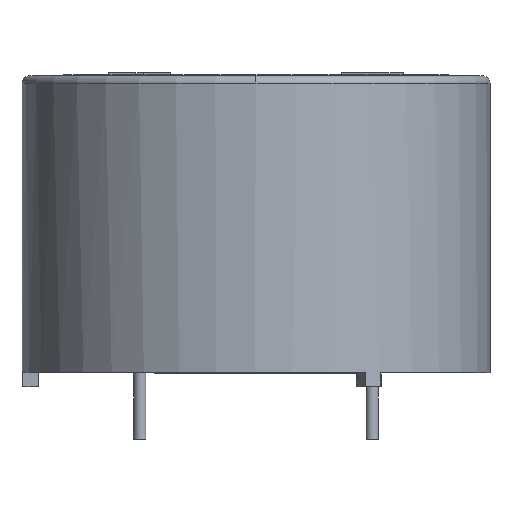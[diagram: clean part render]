
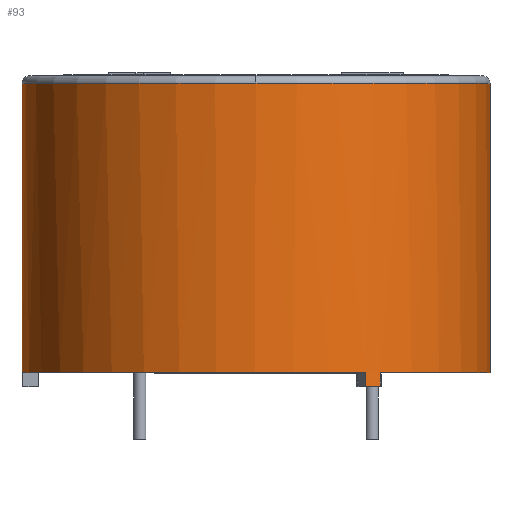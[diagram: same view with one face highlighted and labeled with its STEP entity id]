
A CAD part, top view. The second image highlights one B-rep face of the part: STEP entity #93.
In plain terms, the highlighted cylindrical face has radius 15.1 mm (diameter 30.2 mm), a partial arc.
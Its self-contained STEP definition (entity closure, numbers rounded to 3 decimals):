
#93=ADVANCED_FACE('',(#223),#224,.T.);
#223=FACE_OUTER_BOUND('',#396,.T.);
#224=CYLINDRICAL_SURFACE('',#397,15.1);
#396=EDGE_LOOP('',(#624,#625,#626,#627,#628,#629,#630,#631,#632,#633,#634));
#397=AXIS2_PLACEMENT_3D('',#635,#636,#637);
#624=ORIENTED_EDGE('',*,*,#1062,.T.);
#625=ORIENTED_EDGE('',*,*,#1075,.F.);
#626=ORIENTED_EDGE('',*,*,#1081,.F.);
#627=ORIENTED_EDGE('',*,*,#1070,.T.);
#628=ORIENTED_EDGE('',*,*,#1083,.F.);
#629=ORIENTED_EDGE('',*,*,#1084,.F.);
#630=ORIENTED_EDGE('',*,*,#1085,.F.);
#631=ORIENTED_EDGE('',*,*,#1086,.T.);
#632=ORIENTED_EDGE('',*,*,#1087,.F.);
#633=ORIENTED_EDGE('',*,*,#1088,.F.);
#634=ORIENTED_EDGE('',*,*,#1089,.F.);
#635=CARTESIAN_POINT('',(0.0,0.0,0.0));
#636=DIRECTION('',(0.0,-1.0,0.0));
#637=DIRECTION('',(1.0,0.0,0.0));
#1062=EDGE_CURVE('',#1287,#1288,#1289,.T.);
#1070=EDGE_CURVE('',#1304,#1302,#1305,.T.);
#1075=EDGE_CURVE('',#1310,#1288,#1313,.T.);
#1081=EDGE_CURVE('',#1304,#1310,#1321,.T.);
#1083=EDGE_CURVE('',#1323,#1302,#1324,.T.);
#1084=EDGE_CURVE('',#1325,#1323,#1326,.T.);
#1085=EDGE_CURVE('',#1327,#1325,#1328,.T.);
#1086=EDGE_CURVE('',#1327,#1329,#1330,.T.);
#1087=EDGE_CURVE('',#1331,#1329,#1332,.T.);
#1088=EDGE_CURVE('',#1333,#1331,#1334,.T.);
#1089=EDGE_CURVE('',#1287,#1333,#1335,.T.);
#1287=VERTEX_POINT('',#1611);
#1288=VERTEX_POINT('',#1612);
#1289=LINE('',#1613,#1614);
#1302=VERTEX_POINT('',#1630);
#1304=VERTEX_POINT('',#1632);
#1305=LINE('',#1633,#1634);
#1310=VERTEX_POINT('',#1639);
#1313=CIRCLE('',#1642,15.1);
#1321=CIRCLE('',#1650,15.1);
#1323=VERTEX_POINT('',#1652);
#1324=CIRCLE('',#1653,15.1);
#1325=VERTEX_POINT('',#1654);
#1326=LINE('',#1655,#1656);
#1327=VERTEX_POINT('',#1657);
#1328=CIRCLE('',#1658,15.1);
#1329=VERTEX_POINT('',#1659);
#1330=LINE('',#1660,#1661);
#1331=VERTEX_POINT('',#1662);
#1332=CIRCLE('',#1663,15.1);
#1333=VERTEX_POINT('',#1664);
#1334=LINE('',#1665,#1666);
#1335=CIRCLE('',#1667,15.1);
#1611=CARTESIAN_POINT('',(15.1,-17.2,0.));
#1612=CARTESIAN_POINT('',(15.1,1.45,0.));
#1613=CARTESIAN_POINT('',(15.1,0.0,0.));
#1614=VECTOR('',#1974,1.0);
#1630=CARTESIAN_POINT('',(-15.1,-18.1,0.));
#1632=CARTESIAN_POINT('',(-15.1,1.45,0.));
#1633=CARTESIAN_POINT('',(-15.1,0.0,0.));
#1634=VECTOR('',#1990,1.0);
#1639=CARTESIAN_POINT('',(0.,1.45,15.1));
#1642=AXIS2_PLACEMENT_3D('',#2000,#2001,#2002);
#1650=AXIS2_PLACEMENT_3D('',#2015,#2016,#2017);
#1652=CARTESIAN_POINT('',(-15.048,-18.1,1.25));
#1653=AXIS2_PLACEMENT_3D('',#2018,#2019,#2020);
#1654=CARTESIAN_POINT('',(-15.048,-17.2,1.25));
#1655=CARTESIAN_POINT('',(-15.048,-17.2,1.25));
#1656=VECTOR('',#2021,0.9);
#1657=CARTESIAN_POINT('',(7.078,-17.2,13.339));
#1658=AXIS2_PLACEMENT_3D('',#2022,#2023,#2024);
#1659=CARTESIAN_POINT('',(7.078,-18.1,13.339));
#1660=CARTESIAN_POINT('',(7.078,-17.2,13.339));
#1661=VECTOR('',#2025,0.9);
#1662=CARTESIAN_POINT('',(8.013,-18.1,12.799));
#1663=AXIS2_PLACEMENT_3D('',#2026,#2027,#2028);
#1664=CARTESIAN_POINT('',(8.013,-17.2,12.799));
#1665=CARTESIAN_POINT('',(8.013,-17.2,12.799));
#1666=VECTOR('',#2029,0.9);
#1667=AXIS2_PLACEMENT_3D('',#2030,#2031,#2032);
#1974=DIRECTION('',(-0.0,1.0,-0.0));
#1990=DIRECTION('',(0.0,-1.0,0.0));
#2000=CARTESIAN_POINT('',(0.0,1.45,0.0));
#2001=DIRECTION('',(-0.0,1.0,0.0));
#2002=DIRECTION('',(1.0,0.0,0.0));
#2015=CARTESIAN_POINT('',(0.0,1.45,0.0));
#2016=DIRECTION('',(-0.0,1.0,0.0));
#2017=DIRECTION('',(1.0,0.0,0.0));
#2018=CARTESIAN_POINT('',(0.,-18.1,0.0));
#2019=DIRECTION('',(0.0,-1.0,0.0));
#2020=DIRECTION('',(-0.997,0.0,0.083));
#2021=DIRECTION('',(0.0,-1.0,0.0));
#2022=CARTESIAN_POINT('',(0.0,-17.2,0.0));
#2023=DIRECTION('',(0.0,-1.0,0.0));
#2024=DIRECTION('',(-1.0,0.0,0.0));
#2025=DIRECTION('',(0.0,-1.0,0.0));
#2026=CARTESIAN_POINT('',(0.,-18.1,0.));
#2027=DIRECTION('',(0.0,-1.0,0.0));
#2028=DIRECTION('',(0.531,0.0,0.848));
#2029=DIRECTION('',(0.0,-1.0,0.0));
#2030=CARTESIAN_POINT('',(0.0,-17.2,0.0));
#2031=DIRECTION('',(0.0,-1.0,0.0));
#2032=DIRECTION('',(-1.0,0.0,0.0));
